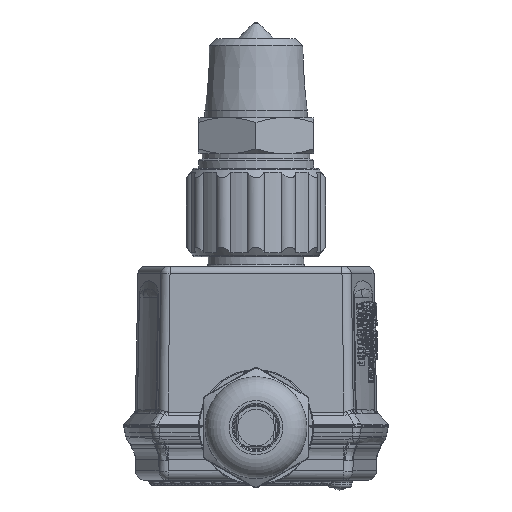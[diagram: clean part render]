
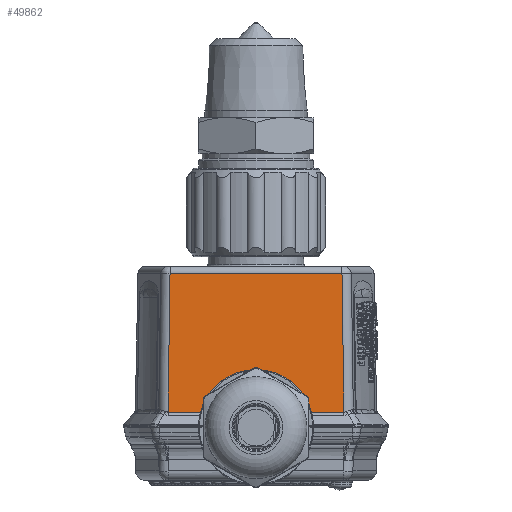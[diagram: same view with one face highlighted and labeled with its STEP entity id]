
A CAD part, front view. The second image highlights one B-rep face of the part: STEP entity #49862.
In plain terms, the highlighted planar face has unit normal (0, -1, 0.018).
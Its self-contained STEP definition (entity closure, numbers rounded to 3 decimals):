
#841=(
BOUNDED_CURVE()
B_SPLINE_CURVE(3,(#120979,#120980,#120981,#120982,#120983,#120984),
 .UNSPECIFIED.,.F.,.F.)
B_SPLINE_CURVE_WITH_KNOTS((4,2,4),(3.188,3.95,4.712),
 .UNSPECIFIED.)
CURVE()
GEOMETRIC_REPRESENTATION_ITEM()
RATIONAL_B_SPLINE_CURVE((1.,1.,1.,1.,1.,1.))
REPRESENTATION_ITEM('')
);
#842=(
BOUNDED_CURVE()
B_SPLINE_CURVE(3,(#120988,#120989,#120990,#120991,#120992,#120993),
 .UNSPECIFIED.,.F.,.F.)
B_SPLINE_CURVE_WITH_KNOTS((4,2,4),(1.571,2.333,3.095),
 .UNSPECIFIED.)
CURVE()
GEOMETRIC_REPRESENTATION_ITEM()
RATIONAL_B_SPLINE_CURVE((1.,1.,1.,1.,1.,1.))
REPRESENTATION_ITEM('')
);
#2956=LINE('',#120961,#5271);
#2957=LINE('',#120977,#5272);
#2958=LINE('',#120995,#5273);
#2959=LINE('',#121011,#5274);
#2960=LINE('',#121013,#5275);
#2961=LINE('',#121015,#5276);
#2962=LINE('',#121016,#5277);
#5271=VECTOR('',#60385,10.767);
#5272=VECTOR('',#60386,3.643);
#5273=VECTOR('',#60389,3.643);
#5274=VECTOR('',#60390,10.767);
#5275=VECTOR('',#60391,28.884);
#5276=VECTOR('',#60392,35.856);
#5277=VECTOR('',#60393,28.884);
#9300=B_SPLINE_CURVE_WITH_KNOTS('',3,(#120963,#120964,#120965,#120966,#120967,
#120968,#120969,#120970,#120971,#120972,#120973,#120974,#120975),
 .UNSPECIFIED.,.F.,.F.,(4,3,3,3,4),(5.107,5.384,5.651,
5.919,6.167),.UNSPECIFIED.);
#9301=B_SPLINE_CURVE_WITH_KNOTS('',3,(#120997,#120998,#120999,#121000,#121001,
#121002,#121003,#121004,#121005,#121006,#121007,#121008,#121009),
 .UNSPECIFIED.,.F.,.F.,(4,3,3,3,4),(0.116,0.381,
0.646,0.911,1.176),.UNSPECIFIED.);
#10179=PLANE('',#52906);
#12573=FACE_OUTER_BOUND('',#15673,.T.);
#15673=EDGE_LOOP('',(#41297,#41298,#41299,#41300,#41301,#41302,#41303,#41304,
#41305,#41306,#41307,#41308));
#17734=CIRCLE('',#52907,12.2);
#22208=VERTEX_POINT('',#120959);
#22209=VERTEX_POINT('',#120960);
#22210=VERTEX_POINT('',#120962);
#22211=VERTEX_POINT('',#120976);
#22212=VERTEX_POINT('',#120978);
#22213=VERTEX_POINT('',#120985);
#22214=VERTEX_POINT('',#120987);
#22215=VERTEX_POINT('',#120994);
#22216=VERTEX_POINT('',#120996);
#22217=VERTEX_POINT('',#121010);
#22218=VERTEX_POINT('',#121012);
#22219=VERTEX_POINT('',#121014);
#28751=EDGE_CURVE('',#22208,#22209,#2956,.T.);
#28752=EDGE_CURVE('',#22209,#22210,#9300,.T.);
#28753=EDGE_CURVE('',#22210,#22211,#2957,.T.);
#28754=EDGE_CURVE('',#22212,#22211,#841,.T.);
#28755=EDGE_CURVE('',#22212,#22213,#17734,.T.);
#28756=EDGE_CURVE('',#22214,#22213,#842,.T.);
#28757=EDGE_CURVE('',#22214,#22215,#2958,.T.);
#28758=EDGE_CURVE('',#22215,#22216,#9301,.T.);
#28759=EDGE_CURVE('',#22216,#22217,#2959,.T.);
#28760=EDGE_CURVE('',#22217,#22218,#2960,.T.);
#28761=EDGE_CURVE('',#22218,#22219,#2961,.T.);
#28762=EDGE_CURVE('',#22219,#22208,#2962,.T.);
#41297=ORIENTED_EDGE('',*,*,#28751,.T.);
#41298=ORIENTED_EDGE('',*,*,#28752,.T.);
#41299=ORIENTED_EDGE('',*,*,#28753,.T.);
#41300=ORIENTED_EDGE('',*,*,#28754,.F.);
#41301=ORIENTED_EDGE('',*,*,#28755,.T.);
#41302=ORIENTED_EDGE('',*,*,#28756,.F.);
#41303=ORIENTED_EDGE('',*,*,#28757,.T.);
#41304=ORIENTED_EDGE('',*,*,#28758,.T.);
#41305=ORIENTED_EDGE('',*,*,#28759,.T.);
#41306=ORIENTED_EDGE('',*,*,#28760,.T.);
#41307=ORIENTED_EDGE('',*,*,#28761,.T.);
#41308=ORIENTED_EDGE('',*,*,#28762,.T.);
#49862=ADVANCED_FACE('',(#12573),#10179,.T.);
#52906=AXIS2_PLACEMENT_3D('',#120958,#60383,#60384);
#52907=AXIS2_PLACEMENT_3D('',#120986,#60387,#60388);
#60383=DIRECTION('center_axis',(0.,-1.,0.017));
#60384=DIRECTION('ref_axis',(0.,-0.017,-1.));
#60385=DIRECTION('',(1.,0.,0.));
#60386=DIRECTION('',(0.,0.017,1.));
#60387=DIRECTION('center_axis',(0.,1.,
-0.017));
#60388=DIRECTION('ref_axis',(0.047,0.017,0.999));
#60389=DIRECTION('',(0.,-0.017,-1.));
#60390=DIRECTION('',(1.,0.,0.));
#60391=DIRECTION('',(-0.014,0.017,1.));
#60392=DIRECTION('',(-1.,0.,0.));
#60393=DIRECTION('',(-0.014,-0.017,-1.));
#120958=CARTESIAN_POINT('Origin',(20.,-23.,-33.5));
#120959=CARTESIAN_POINT('',(-18.336,-22.945,-30.35));
#120960=CARTESIAN_POINT('',(-7.569,-22.945,-30.35));
#120961=CARTESIAN_POINT('',(-7.503,-22.945,-30.35));
#120962=CARTESIAN_POINT('',(-0.95,-22.858,-25.359));
#120963=CARTESIAN_POINT('Ctrl Pts',(-7.569,-22.945,
-30.35));
#120964=CARTESIAN_POINT('Ctrl Pts',(-7.292,-22.933,
-29.684));
#120965=CARTESIAN_POINT('Ctrl Pts',(-6.914,-22.922,
-29.03));
#120966=CARTESIAN_POINT('Ctrl Pts',(-6.443,-22.912,
-28.431));
#120967=CARTESIAN_POINT('Ctrl Pts',(-5.988,-22.901,
-27.853));
#120968=CARTESIAN_POINT('Ctrl Pts',(-5.446,-22.892,
-27.328));
#120969=CARTESIAN_POINT('Ctrl Pts',(-4.843,-22.885,
-26.886));
#120970=CARTESIAN_POINT('Ctrl Pts',(-4.238,-22.877,
-26.444));
#120971=CARTESIAN_POINT('Ctrl Pts',(-3.573,-22.871,
-26.086));
#120972=CARTESIAN_POINT('Ctrl Pts',(-2.885,-22.866,
-25.828));
#120973=CARTESIAN_POINT('Ctrl Pts',(-2.248,-22.862,
-25.588));
#120974=CARTESIAN_POINT('Ctrl Pts',(-1.593,-22.859,
-25.434));
#120975=CARTESIAN_POINT('Ctrl Pts',(-0.95,-22.858,
-25.359));
#120976=CARTESIAN_POINT('',(-0.95,-22.794,-21.716));
#120977=CARTESIAN_POINT('',(-0.95,-23.,-33.5));
#120978=CARTESIAN_POINT('',(-0.569,-22.787,-21.317));
#120979=CARTESIAN_POINT('Ctrl Pts',(-0.569,-22.787,
-21.317));
#120980=CARTESIAN_POINT('Ctrl Pts',(-0.67,-22.787,
-21.321));
#120981=CARTESIAN_POINT('Ctrl Pts',(-0.769,-22.788,
-21.367));
#120982=CARTESIAN_POINT('Ctrl Pts',(-0.91,-22.791,
-21.514));
#120983=CARTESIAN_POINT('Ctrl Pts',(-0.95,-22.793,
-21.614));
#120984=CARTESIAN_POINT('Ctrl Pts',(-0.95,-22.794,-21.716));
#120985=CARTESIAN_POINT('',(0.569,-22.787,-21.317));
#120986=CARTESIAN_POINT('Origin',(0.,-23.,
-33.502));
#120987=CARTESIAN_POINT('',(0.95,-22.794,-21.716));
#120988=CARTESIAN_POINT('Ctrl Pts',(0.95,-22.794,-21.716));
#120989=CARTESIAN_POINT('Ctrl Pts',(0.95,-22.793,
-21.614));
#120990=CARTESIAN_POINT('Ctrl Pts',(0.91,-22.791,
-21.514));
#120991=CARTESIAN_POINT('Ctrl Pts',(0.769,-22.788,
-21.367));
#120992=CARTESIAN_POINT('Ctrl Pts',(0.67,-22.787,
-21.321));
#120993=CARTESIAN_POINT('Ctrl Pts',(0.569,-22.787,
-21.317));
#120994=CARTESIAN_POINT('',(0.95,-22.858,-25.359));
#120995=CARTESIAN_POINT('',(0.95,-23.,-33.5));
#120996=CARTESIAN_POINT('',(7.569,-22.945,-30.35));
#120997=CARTESIAN_POINT('Ctrl Pts',(0.95,-22.858,
-25.359));
#120998=CARTESIAN_POINT('Ctrl Pts',(1.669,-22.859,
-25.443));
#120999=CARTESIAN_POINT('Ctrl Pts',(2.378,-22.862,
-25.622));
#121000=CARTESIAN_POINT('Ctrl Pts',(3.05,-22.867,
-25.892));
#121001=CARTESIAN_POINT('Ctrl Pts',(3.722,-22.872,
-26.161));
#121002=CARTESIAN_POINT('Ctrl Pts',(4.359,-22.878,
-26.52));
#121003=CARTESIAN_POINT('Ctrl Pts',(4.937,-22.886,
-26.956));
#121004=CARTESIAN_POINT('Ctrl Pts',(5.515,-22.893,-27.392));
#121005=CARTESIAN_POINT('Ctrl Pts',(6.035,-22.902,
-27.906));
#121006=CARTESIAN_POINT('Ctrl Pts',(6.479,-22.912,
-28.478));
#121007=CARTESIAN_POINT('Ctrl Pts',(6.923,-22.922,
-29.05));
#121008=CARTESIAN_POINT('Ctrl Pts',(7.291,-22.933,
-29.682));
#121009=CARTESIAN_POINT('Ctrl Pts',(7.569,-22.945,-30.35));
#121010=CARTESIAN_POINT('',(18.336,-22.945,-30.35));
#121011=CARTESIAN_POINT('',(18.341,-22.945,-30.35));
#121012=CARTESIAN_POINT('',(17.928,-22.441,-1.474));
#121013=CARTESIAN_POINT('',(18.381,-23.,-33.523));
#121014=CARTESIAN_POINT('',(-17.928,-22.441,-1.474));
#121015=CARTESIAN_POINT('',(-17.907,-22.441,-1.474));
#121016=CARTESIAN_POINT('',(-18.373,-22.991,-32.958));
